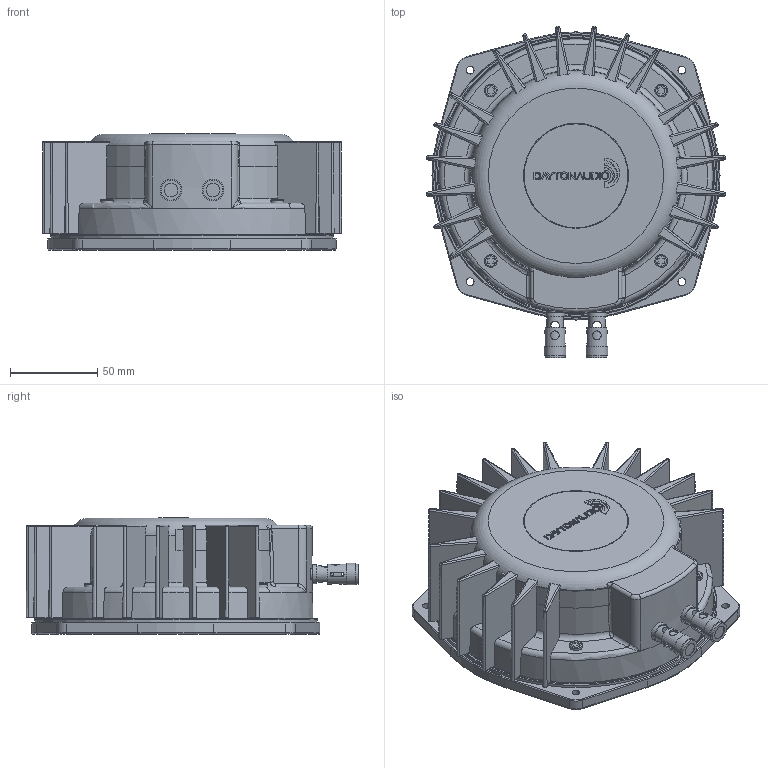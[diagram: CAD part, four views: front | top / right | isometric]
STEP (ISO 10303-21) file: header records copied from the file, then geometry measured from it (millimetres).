
FILE_DESCRIPTION(/* description */ (''),/* implementation_level */ '2;1');
FILE_NAME(/* name */ 'BST-300EX_3D.step',/* time_stamp */ '2025-08-26T16:34:58-04:00',/* author */ (''),/* organization */ (''),/* preprocessor_version */ 'ST-DEVELOPER v20.1',/* originating_system */ 'Autodesk Translation Framework v14.10.0.0',/* authorisation */ '');
FILE_SCHEMA (('AUTOMOTIVE_DESIGN { 1 0 10303 214 3 1 1 }'));
Products named in the file (2): (Unsaved); YD100-01-LOGO
Assembly tree (1 placements, depth 2):
  (Unsaved)
    YD100-01-LOGO
Bounding box: 171.73 x 190.14 x 66.8 mm (x, y, z)
Volume: 985829.4 mm3; surface area: 235991.5 mm2
Topology: 1 solids, 7 shells, 911 faces, 2389 edges, 1541 vertices
Faces by surface type: plane 343, cylinder 280, bspline 126, torus 98, cone 56, sphere 8
Full cylindrical faces by diameter (mm): 2 x4, 3.4 x4, 4 x90, 4.5 x10, 4.6 x2, 5 x4, 6 x2, 6.2 x2, 7.2 x4, 7.8 x2, 9.5 x2, 11 x4, 11.5 x4, 12.5 x2, 59.5 x1, 98.551 x1, 103.917 x1, 107 x1, 108 x1, 108.2 x1, 112 x1, 149.103 x1
Entity records: 82208 total; most frequent: CARTESIAN_POINT 60820, ORIENTED_EDGE 4778, DIRECTION 4003, EDGE_CURVE 2389, VERTEX_POINT 1541, AXIS2_PLACEMENT_3D 1506, EDGE_LOOP 1002, LINE 991
